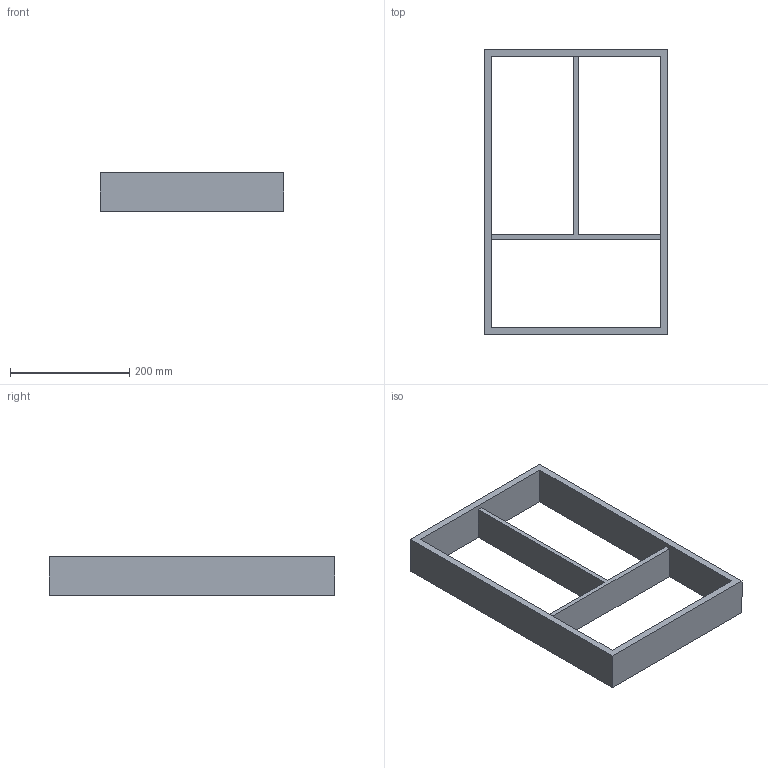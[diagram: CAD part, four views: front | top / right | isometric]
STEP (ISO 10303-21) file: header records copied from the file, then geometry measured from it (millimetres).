
FILE_DESCRIPTION (( 'STEP AP214' ), '1' );
FILE_NAME ('Vario Multi NL500_B400_16 mm_Buche.step', '2010-10-07T06:24:13', ( 'grass' ), ( '' ), 'SwSTEP 2.0', 'SolidWorks 2010', '' );
FILE_SCHEMA (( 'AUTOMOTIVE_DESIGN' ));
Length unit declared in the file: millimetre
Products named in the file (1): Vario Multi NL500_B400_16 mm_Buche
Bounding box: 308 x 479 x 65 mm (x, y, z)
Volume: 1456036.8 mm3; surface area: 308944 mm2
Topology: 1 solids, 1 shells, 16 faces, 48 edges, 32 vertices
Faces by surface type: plane 16
Entity records: 578 total; most frequent: CARTESIAN_POINT 97, ORIENTED_EDGE 96, DIRECTION 82, EDGE_CURVE 48, LINE 48, VECTOR 48, VERTEX_POINT 32, EDGE_LOOP 20
